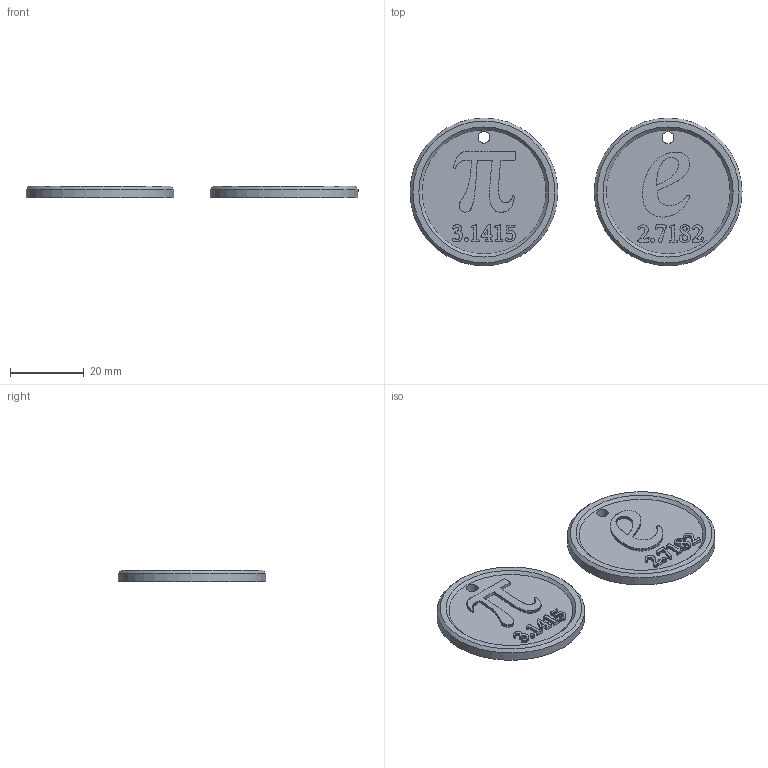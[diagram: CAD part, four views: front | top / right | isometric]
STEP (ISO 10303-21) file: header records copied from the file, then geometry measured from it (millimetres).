
FILE_DESCRIPTION(/* description */ (''),/* implementation_level */ '2;1');
FILE_NAME(/* name */ 'math.stp',/* time_stamp */ '2025-12-30T08:30:12+01:00',/* author */ ('R5800u'),/* organization */ (''),/* preprocessor_version */ 'ST-DEVELOPER v20',/* originating_system */ 'Autodesk Inventor 2025',/* authorisation */ '');
FILE_SCHEMA (('AUTOMOTIVE_DESIGN { 1 0 10303 214 3 1 1 }'));
Length unit declared in the file: millimetre
Products named in the file (1): math
Bounding box: 89.85 x 40 x 3.2 mm (x, y, z)
Volume: 6577.8 mm3; surface area: 6138.4 mm2
Topology: 2 solids, 2 shells, 1435 faces, 4182 edges, 2764 vertices
Faces by surface type: plane 1392, cylinder 39, cone 4
Full cylindrical faces by diameter (mm): 3.2 x2, 40 x2
Entity records: 47825 total; most frequent: CARTESIAN_POINT 8382, ORIENTED_EDGE 8364, DIRECTION 7142, EDGE_CURVE 4182, LINE 4094, VECTOR 4094, VERTEX_POINT 2764, AXIS2_PLACEMENT_3D 1524
